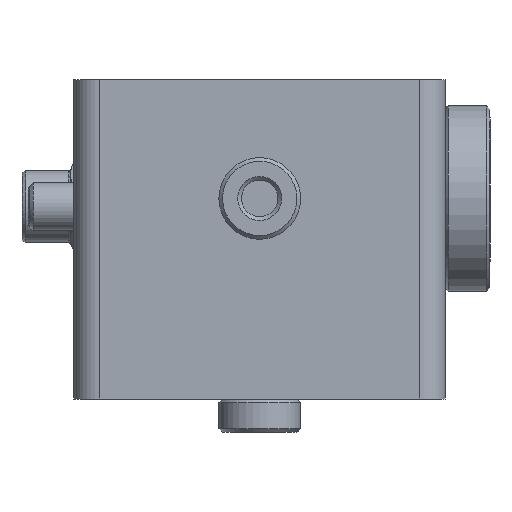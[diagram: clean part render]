
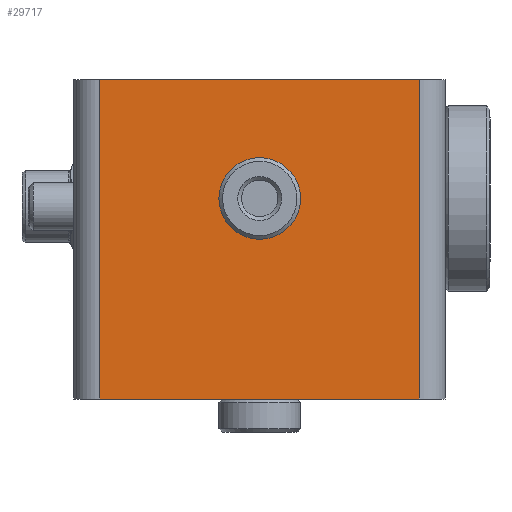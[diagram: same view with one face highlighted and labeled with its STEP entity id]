
A CAD part, left-side view. The second image highlights one B-rep face of the part: STEP entity #29717.
In plain terms, the highlighted planar face has unit normal (-1, 0, 0).
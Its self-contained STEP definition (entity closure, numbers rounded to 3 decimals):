
#693=FACE_BOUND('',#9739,.T.);
#3227=LINE('',#49061,#5810);
#3236=LINE('',#49123,#5819);
#3541=LINE('',#50798,#6124);
#3556=LINE('',#50834,#6139);
#5810=VECTOR('',#34991,10.);
#5819=VECTOR('',#35024,10.);
#6124=VECTOR('',#35605,10.);
#6139=VECTOR('',#35646,10.);
#8087=FACE_OUTER_BOUND('',#9738,.T.);
#9738=EDGE_LOOP('',(#23187,#23188,#23189,#23190));
#9739=EDGE_LOOP('',(#23191));
#10518=CIRCLE('',#30925,5.);
#12259=VERTEX_POINT('',#47869);
#12440=VERTEX_POINT('',#49059);
#12441=VERTEX_POINT('',#49060);
#12458=VERTEX_POINT('',#49120);
#12459=VERTEX_POINT('',#49122);
#15713=EDGE_CURVE('',#12259,#12259,#10518,.T.);
#15973=EDGE_CURVE('',#12440,#12441,#3227,.T.);
#15993=EDGE_CURVE('',#12459,#12458,#3236,.T.);
#16441=EDGE_CURVE('',#12459,#12440,#3541,.T.);
#16460=EDGE_CURVE('',#12441,#12458,#3556,.T.);
#23187=ORIENTED_EDGE('',*,*,#15993,.T.);
#23188=ORIENTED_EDGE('',*,*,#16460,.F.);
#23189=ORIENTED_EDGE('',*,*,#15973,.F.);
#23190=ORIENTED_EDGE('',*,*,#16441,.F.);
#23191=ORIENTED_EDGE('',*,*,#15713,.T.);
#26870=PLANE('',#31267);
#29717=ADVANCED_FACE('',(#8087,#693),#26870,.T.);
#30925=AXIS2_PLACEMENT_3D('',#47871,#34567,#34568);
#31267=AXIS2_PLACEMENT_3D('',#50883,#35695,#35696);
#34567=DIRECTION('center_axis',(1.,0.,0.));
#34568=DIRECTION('ref_axis',(0.,0.,
-1.));
#34991=DIRECTION('',(0.,0.,-1.));
#35024=DIRECTION('',(0.,0.,-1.));
#35605=DIRECTION('',(0.,-1.,0.));
#35646=DIRECTION('',(0.,1.,0.));
#35695=DIRECTION('center_axis',(-1.,0.,0.));
#35696=DIRECTION('ref_axis',(0.,-1.,0.));
#47869=CARTESIAN_POINT('',(-93.567,-32.942,129.822));
#47871=CARTESIAN_POINT('Origin',(-93.567,-32.942,124.822));
#49059=CARTESIAN_POINT('',(-93.567,-54.442,140.822));
#49060=CARTESIAN_POINT('',(-93.567,-54.442,97.822));
#49061=CARTESIAN_POINT('',(-93.567,-54.442,100.822));
#49120=CARTESIAN_POINT('',(-93.567,-11.442,97.822));
#49122=CARTESIAN_POINT('',(-93.567,-11.442,140.822));
#49123=CARTESIAN_POINT('',(-93.567,-11.442,100.822));
#50798=CARTESIAN_POINT('',(-93.567,-11.442,140.822));
#50834=CARTESIAN_POINT('',(-93.567,-11.442,97.822));
#50883=CARTESIAN_POINT('Origin',(-93.567,-7.942,100.822));
